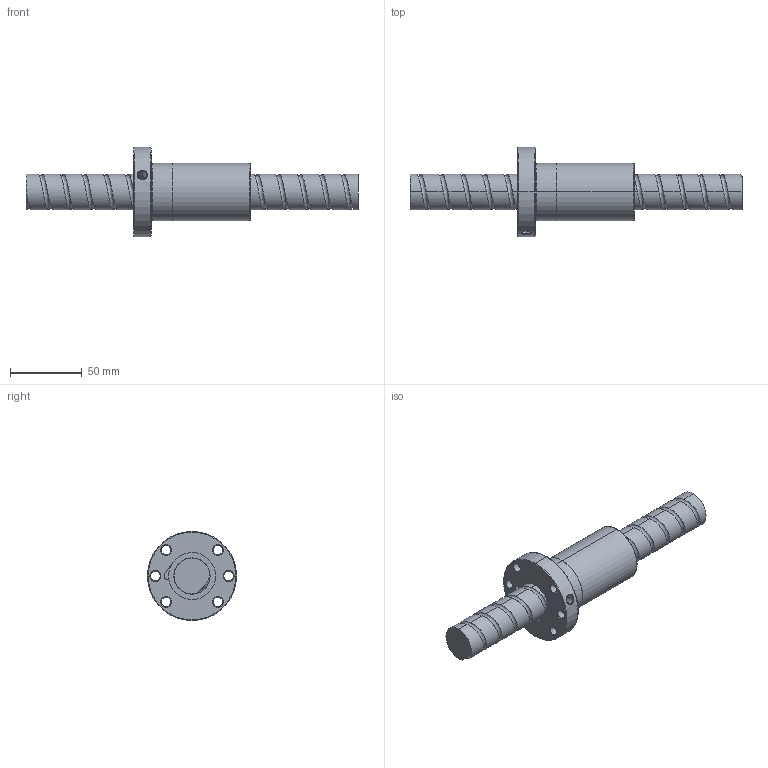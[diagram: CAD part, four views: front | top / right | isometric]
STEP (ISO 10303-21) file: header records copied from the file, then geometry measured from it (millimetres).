
FILE_DESCRIPTION (( 'STEP AP214' ), '1' );
FILE_NAME ('FSDC02515T4-B-A.STEP', '2010-06-25T11:48:59', ( 'XPAUTO' ), ( 'XPAUTO' ), 'SwSTEP 2.0', 'SolidWorks 2007', '' );
FILE_SCHEMA (( 'AUTOMOTIVE_DESIGN' ));
Length unit declared in the file: millimetre
Products named in the file (3): FSDC02515T4-B-A.sldasm-Part-1_預設; FSDC02515T4-B-A.sldasm-Part-2_預設; FSDC02515T4-B-A
Assembly tree (2 placements, depth 2):
  FSDC02515T4-B-A
    FSDC02515T4-B-A.sldasm-Part-2_預設
    FSDC02515T4-B-A.sldasm-Part-1_預設
Bounding box: 231 x 62 x 62 mm (x, y, z)
Volume: 188542.3 mm3; surface area: 44310.6 mm2
Topology: 2 solids, 2 shells, 123 faces, 307 edges, 193 vertices
Faces by surface type: cylinder 72, cone 24, plane 16, torus 6, bspline 5
Entity records: 25109 total; most frequent: CARTESIAN_POINT 22148, ORIENTED_EDGE 614, DIRECTION 585, EDGE_CURVE 307, AXIS2_PLACEMENT_3D 241, VERTEX_POINT 193, EDGE_LOOP 144, FACE_OUTER_BOUND 123
